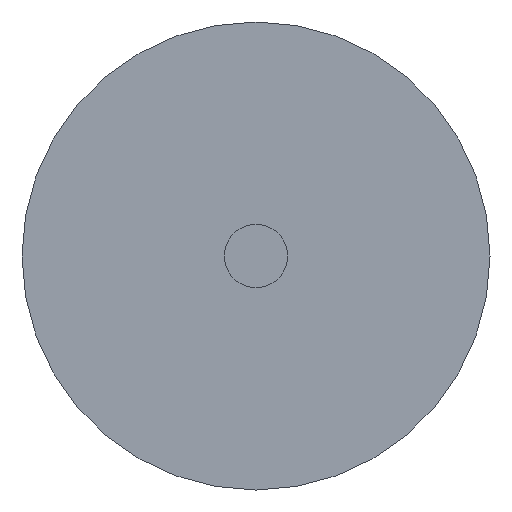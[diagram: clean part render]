
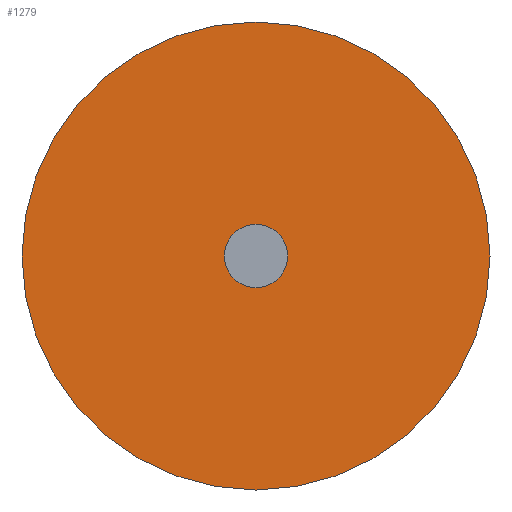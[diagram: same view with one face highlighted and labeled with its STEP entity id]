
A CAD part, left-side view. The second image highlights one B-rep face of the part: STEP entity #1279.
In plain terms, the highlighted planar face has unit normal (-1, 0, 0).
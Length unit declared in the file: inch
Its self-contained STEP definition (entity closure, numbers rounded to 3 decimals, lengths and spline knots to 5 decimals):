
#6 = ORIENTED_EDGE ( 'NONE', *, *, #1601, .F. ) ;
#24 = EDGE_CURVE ( 'NONE', #1021, #713, #2239, .T. ) ;
#61 = AXIS2_PLACEMENT_3D ( 'NONE', #715, #1456, #2184 ) ;
#107 = EDGE_CURVE ( 'NONE', #1914, #503, #1705, .T. ) ;
#171 = DIRECTION ( 'NONE',  ( 0., 0., 1. ) ) ;
#190 = ORIENTED_EDGE ( 'NONE', *, *, #923, .T. ) ;
#303 = DIRECTION ( 'NONE',  ( 0., 0., 1. ) ) ;
#471 = AXIS2_PLACEMENT_3D ( 'NONE', #1080, #1809, #171 ) ;
#503 = VERTEX_POINT ( 'NONE', #2318 ) ;
#571 = DIRECTION ( 'NONE',  ( -1., 0., 0. ) ) ;
#602 = DIRECTION ( 'NONE',  ( -1., 0., 0. ) ) ;
#611 = CARTESIAN_POINT ( 'NONE',  ( 0., 0., 0.11787 ) ) ;
#638 = ORIENTED_EDGE ( 'NONE', *, *, #24, .T. ) ;
#713 = VERTEX_POINT ( 'NONE', #2228 ) ;
#715 = CARTESIAN_POINT ( 'NONE',  ( 0., 0., 0. ) ) ;
#891 = FACE_BOUND ( 'NONE', #1728, .T. ) ;
#923 = EDGE_CURVE ( 'NONE', #713, #1021, #1706, .T. ) ;
#1021 = VERTEX_POINT ( 'NONE', #611 ) ;
#1080 = CARTESIAN_POINT ( 'NONE',  ( 0., 0., 0. ) ) ;
#1090 = AXIS2_PLACEMENT_3D ( 'NONE', #2252, #602, #1341 ) ;
#1198 = CARTESIAN_POINT ( 'NONE',  ( 0., 0., -0.016 ) ) ;
#1227 = CARTESIAN_POINT ( 'NONE',  ( 0., 0., 0. ) ) ;
#1279 = ADVANCED_FACE ( 'NONE', ( #891, #1625 ), #2366, .F. ) ;
#1313 = DIRECTION ( 'NONE',  ( 0., 0., 1. ) ) ;
#1341 = DIRECTION ( 'NONE',  ( 0., 0., 1. ) ) ;
#1456 = DIRECTION ( 'NONE',  ( 1., 0., 0. ) ) ;
#1601 = EDGE_CURVE ( 'NONE', #503, #1914, #1924, .T. ) ;
#1617 = ORIENTED_EDGE ( 'NONE', *, *, #107, .F. ) ;
#1625 = FACE_OUTER_BOUND ( 'NONE', #1898, .T. ) ;
#1705 = CIRCLE ( 'NONE', #1090, 0.016 ) ;
#1706 = CIRCLE ( 'NONE', #1708, 0.11787 ) ;
#1708 = AXIS2_PLACEMENT_3D ( 'NONE', #2223, #571, #1313 ) ;
#1728 = EDGE_LOOP ( 'NONE', ( #6, #1617 ) ) ;
#1809 = DIRECTION ( 'NONE',  ( -1., 0., 0. ) ) ;
#1888 = AXIS2_PLACEMENT_3D ( 'NONE', #1227, #1946, #303 ) ;
#1898 = EDGE_LOOP ( 'NONE', ( #638, #190 ) ) ;
#1914 = VERTEX_POINT ( 'NONE', #1198 ) ;
#1924 = CIRCLE ( 'NONE', #1888, 0.016 ) ;
#1946 = DIRECTION ( 'NONE',  ( -1., 0., 0. ) ) ;
#2184 = DIRECTION ( 'NONE',  ( 0., 0., -1. ) ) ;
#2223 = CARTESIAN_POINT ( 'NONE',  ( 0., 0., 0. ) ) ;
#2228 = CARTESIAN_POINT ( 'NONE',  ( 0., 0., -0.11787 ) ) ;
#2239 = CIRCLE ( 'NONE', #471, 0.11787 ) ;
#2252 = CARTESIAN_POINT ( 'NONE',  ( 0., 0., 0. ) ) ;
#2318 = CARTESIAN_POINT ( 'NONE',  ( 0., 0., 0.016 ) ) ;
#2366 = PLANE ( 'NONE',  #61 ) ;
